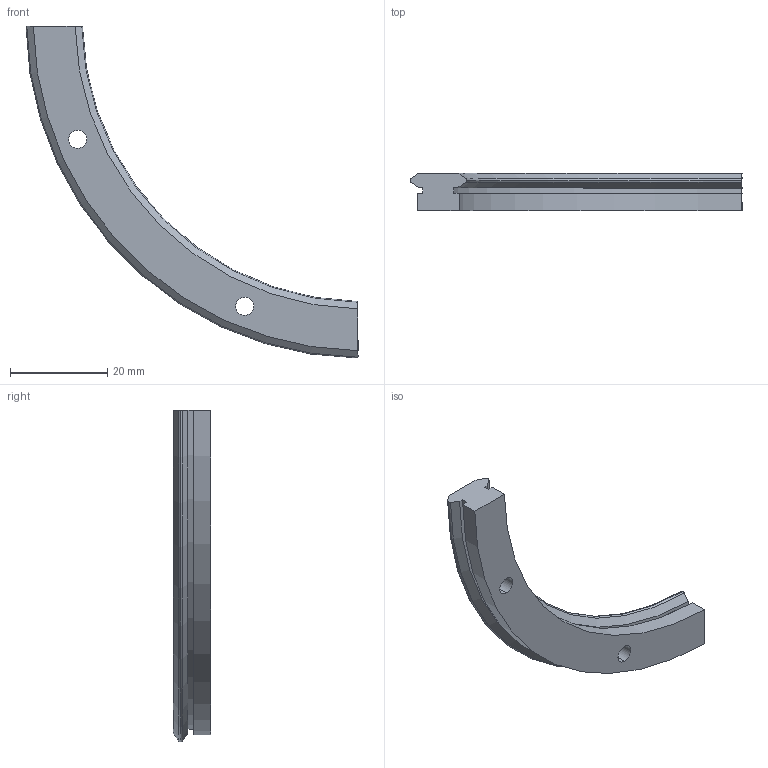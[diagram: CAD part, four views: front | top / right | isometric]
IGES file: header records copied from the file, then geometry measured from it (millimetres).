
Start section: 3D InterOp IGES (v. 2020 1.0.1), Spatial Corp. Copyright (c) 1999-2017.
Global section: file name: r12_127_r90.igs; native system: Spatial Corp.; preprocessor: 3D InterOp ACIS/IGES; author: TraceParts; organization: TraceParts S.A.; date: 20220624.023328; units: millimetre
Bounding box: 68.31 x 7.7 x 68.31 mm (x, y, z)
Surface area: 4176.3 mm2 (no closed solid volume)
Topology: 0 solids, 0 shells, 30 faces, 156 edges, 156 vertices
Faces by surface type: revolution 20, extrusion 10
